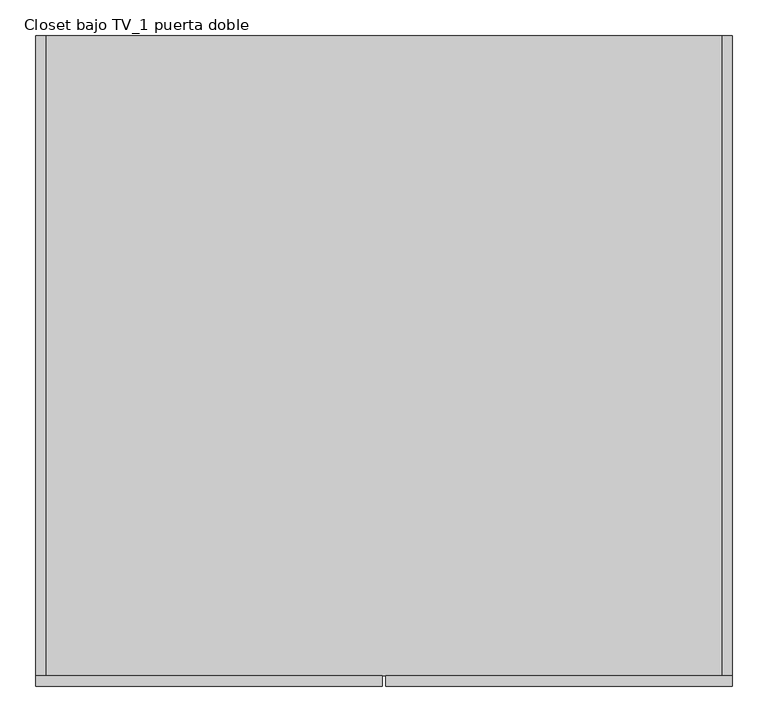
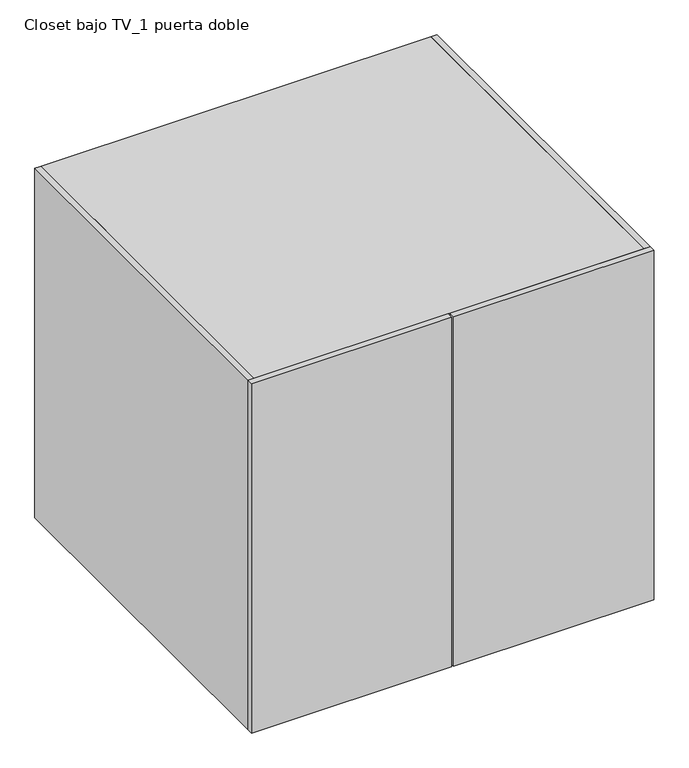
"""IFC4 building model written with IfcOpenShell, lengths in millimetres: furniture geometry, Closet bajo TV_1 puerta doble : CLOSET BAR DEPTO 1 PB."""

from ifc_helpers import new_model, si_unit, frame, origin, origin_with_axes, place, context, project, spatial, polyline, outline, extrude, source, transform, mapped, element, save


def closet_bajo_tv_1_puerta_doble_0b8a0936(model_context):
    return source(origin(), model_context, "Body", "SweptSolid", [
        extrude(outline(polyline([(2.5, -315.0), (2.5, -300.0), (490.0, -300.0), (490.0, -315.0), (2.5, -315.0)])), origin_with_axes(), (0.0, 0.0, 1.0), 900.0),
        extrude(outline(polyline([(-2.5, -300.0), (-2.5, -315.0), (-490.0, -315.0), (-490.0, -300.0), (-2.5, -300.0)])), origin_with_axes(), (0.0, 0.0, 1.0), 900.0),
        extrude(outline(polyline([(475.0, -300.0), (-475.0, -300.0), (-475.0, 600.0), (475.0, 600.0), (475.0, -300.0)])), origin_with_axes(), (0.0, 0.0, 1.0), 15.0),
        extrude(outline(polyline([(475.0, -300.0), (-475.0, -300.0), (-475.0, 600.0), (475.0, 600.0), (475.0, -300.0)])), frame((0.0, 0.0, 885.0), z_axis=(0.0, 0.0, 1.0), x_axis=(1.0, 0.0, 0.0)), (0.0, 0.0, 1.0), 15.0),
        extrude(outline(polyline([(490.0, -300.0), (475.0, -300.0), (475.0, 600.0), (490.0, 600.0), (490.0, -300.0)])), origin_with_axes(), (0.0, 0.0, 1.0), 900.0),
        extrude(outline(polyline([(-475.0, -300.0), (-490.0, -300.0), (-490.0, 600.0), (-475.0, 600.0), (-475.0, -300.0)])), origin_with_axes(), (0.0, 0.0, 1.0), 900.0),
    ])


if __name__ == "__main__":
    model = new_model("IFC4")
    model_context = context("Model", 3, world=origin())
    ifc_project = project(units=[si_unit("LENGTHUNIT", "METRE", prefix="MILLI")], contexts=[model_context])
    site = spatial("IfcSite", under=ifc_project)
    building = spatial("IfcBuilding", under=site)
    placement = place(None, origin())
    closet_bajo_tv_1_puerta_doble_shape = closet_bajo_tv_1_puerta_doble_0b8a0936(model_context)
    element("IfcFurniture", 1, ObjectType="Closet bajo TV_1 puerta doble : CLOSET BAR DEPTO 1 PB", at=placement, inside=building, context=model_context, shape_type="MappedRepresentation", body=[
        mapped(closet_bajo_tv_1_puerta_doble_shape, transform((0.0, 0.0, 0.0), x_axis=(1.0, 0.0, 0.0), y_axis=(0.0, 1.0, 0.0), z_axis=(0.0, 0.0, 1.0))),
    ])
    save(model, "model.ifc")
